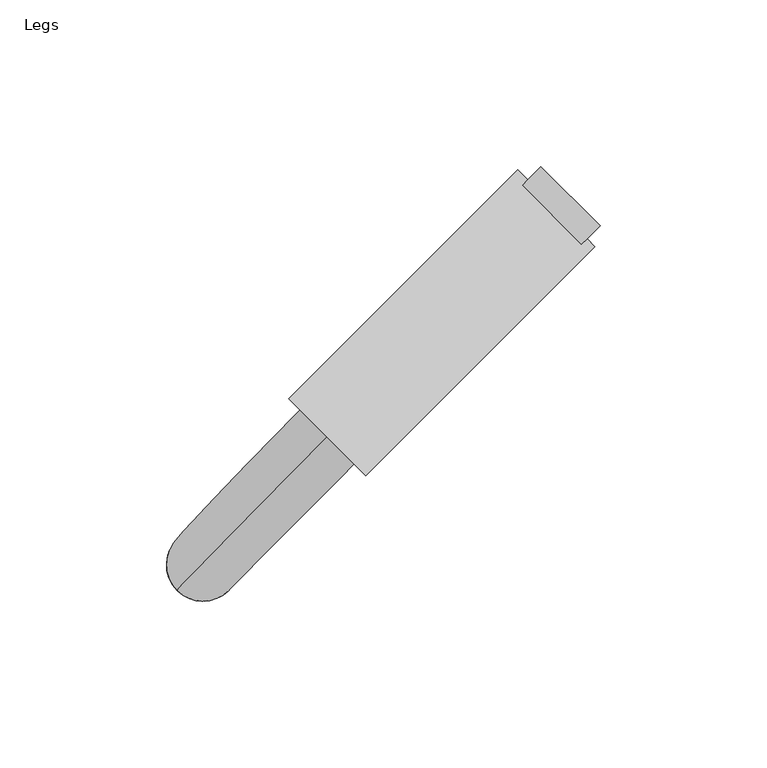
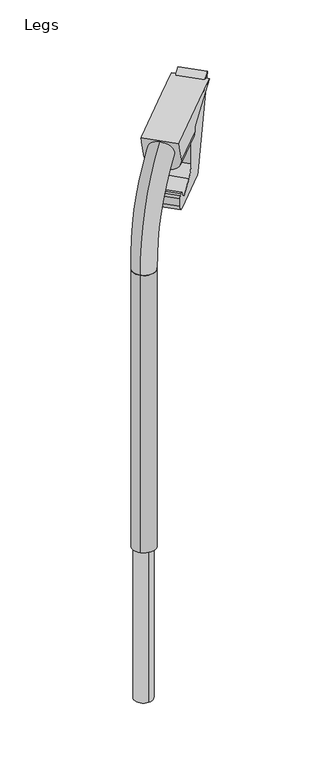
"""IFC4 building model written with IfcOpenShell, lengths in millimetres: furniture geometry, SmithSystem_AM_Numbers_Legs : Legs."""

from ifc_helpers import new_model, si_unit, frame, origin, place, context, project, spatial, polyline, circle_curve, ellipse_curve, source, transform, mapped, element, save
from ifc_brep_helpers import plane_surface, cylinder_surface, revolved_surface, spline_curve, spline_surface, advanced_brep


def legs_1ce2ac0b(model_context):
    return source(origin(), model_context, "Body", "AdvancedBrep", [
        advanced_brep(
        [(0.5359233, -8.456837, 60.300003), (0.5359233, 8.9152003, 60.300003), (0.5359233, -8.456837, 213.4888647), (0.5359233, 8.9152003, 213.4888647), (8.6865367, 7.5640073, 493.3111085), (-6.7585334, -7.8810628, 493.3111085), (8.6865367, 7.5640073, 213.4888647), (-6.7585334, -7.8810628, 213.4888647)],
        [
            (0, 1, circle_curve(frame((0.5359233, 0.2291816, 60.300003), z_axis=(0.0, 0.0, -1.0), x_axis=(-1.0, 0.0, 0.0)), 8.6860186)),
            (1, 0, circle_curve(frame((0.5359233, 0.2291816, 60.300003), z_axis=(0.0, 0.0, -1.0), x_axis=(1.0, 0.0, 0.0)), 8.6860186)),
            (0, 2),
            (2, 3, circle_curve(frame((0.5359233, 0.2291816, 213.4888647), z_axis=(0.0, 0.0, -1.0), x_axis=(-1.0, 0.0, 0.0)), 8.6860186)),
            (3, 1),
            (3, 2, circle_curve(frame((0.5359233, 0.2291816, 213.4888647), z_axis=(0.0, 0.0, -1.0), x_axis=(1.0, 0.0, 0.0)), 8.6860186)),
            (4, 5, circle_curve(frame((0.9690983, -0.1636244, 493.3111085), z_axis=(0.0, 0.0, 1.0), x_axis=(-0.7066399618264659, 0.707573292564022, 0.0)), 10.9213162)),
            (5, 4, circle_curve(frame((0.9589051, -0.1534312, 493.3111085), z_axis=(0.0, 0.0, 1.0), x_axis=(0.7066399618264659, -0.707573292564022, 0.0)), 10.9213162)),
            (6, 7, circle_curve(frame((0.9589051, -0.1534312, 213.4888647), z_axis=(0.0, 0.0, -1.0), x_axis=(0.7066399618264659, -0.707573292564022, 0.0)), 10.9213162)),
            (7, 6, circle_curve(frame((0.9690983, -0.1636244, 213.4888647), z_axis=(0.0, 0.0, -1.0), x_axis=(-0.7066399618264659, 0.707573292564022, 0.0)), 10.9213162)),
            (5, 7),
            (6, 4),
        ],
        [
            plane_surface(frame((0.5359233, 0.2291816, 60.300003), z_axis=(0.0, 0.0, -1.0), x_axis=(1.0, 0.0, 0.0))),
            cylinder_surface(frame((0.5359233, 0.2291816, 213.4888647), z_axis=(0.0, 0.0, -1.0), x_axis=(-1.0, 0.0, 0.0)), 8.6860186),
            cylinder_surface(frame((0.5359233, 0.2291816, 213.4888647), z_axis=(0.0, 0.0, -1.0), x_axis=(1.0, 0.0, 0.0)), 8.6860186),
            plane_surface(frame((0.9640017, -0.1585278, 493.3111085), z_axis=(0.0, 0.0, 1.0), x_axis=(0.7066399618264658, -0.7075732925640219, 0.0))),
            plane_surface(frame((0.9640017, -0.1585278, 213.4888647), z_axis=(0.0, 0.0, -1.0), x_axis=(0.7066399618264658, -0.7075732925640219, 0.0))),
            cylinder_surface(frame((0.9589051, -0.1534312, 213.4888647), z_axis=(0.0, 0.0, 1.0), x_axis=(0.7066399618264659, -0.707573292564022, 0.0)), 10.9213162),
            cylinder_surface(frame((0.9690983, -0.1636244, 213.4888647), z_axis=(0.0, 0.0, 1.0), x_axis=(-0.7066399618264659, 0.707573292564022, 0.0)), 10.9213162),
        ],
        [
            (0, [[1, 2]]),
            (1, [[3, 4, 5, -1]]),
            (2, [[-5, 6, -3, -2]]),
            (3, [[7, 8]]),
            (4, [[9, 10], [-6, -4]]),
            (5, [[11, -9, 12, -8]]),
            (6, [[-12, -10, -11, -7]]),
        ],
    ),
        advanced_brep(
        [(38.6127911, 38.63374, 583.9541002), (43.9258416, 43.9467906, 562.1324748), (-6.7604571, -7.8829865, 493.3192833), (8.6855791, 7.5630496, 493.3028939)],
        [
            (0, 1, spline_curve(3, [(38.6127911, 38.63374, 583.9541002), (40.748984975, 36.497546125, 583.9541002), (43.163884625, 34.657199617, 582.774205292), (47.157355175, 32.626935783, 578.742589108), (48.735926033, 32.437018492, 575.890867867), (50.122025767, 33.824193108, 570.195707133), (49.929554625, 35.401285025, 567.352267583), (48.411493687, 38.397800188, 564.316132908), (47.700580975, 39.501784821, 563.508925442), (45.991803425, 41.742231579, 562.417096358), (44.993938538, 42.878693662, 562.1324748), (43.9258416, 43.9467906, 562.1324748)], [4, 2, 2, 2, 2, 4], [0.0, 0.25, 0.5, 0.75, 0.875, 1.0])),
            (1, 0, spline_curve(3, [(43.9258416, 43.9467906, 562.1324748), (42.857744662, 45.014887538, 562.1324748), (41.721282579, 46.012752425, 562.417096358), (39.480835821, 47.721529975, 563.508925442), (38.376851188, 48.432442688, 564.316132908), (35.380336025, 49.950503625, 567.352267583), (33.803244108, 50.142974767, 570.195707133), (32.416069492, 48.756875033, 575.890867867), (32.605986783, 47.178304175, 578.742589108), (34.636250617, 43.184833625, 582.774205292), (36.476597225, 40.769933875, 583.9541002), (38.6127911, 38.63374, 583.9541002)], [4, 2, 2, 2, 2, 4], [0.0, 0.125, 0.25, 0.5, 0.75, 1.0])),
            (2, 3, spline_curve(3, [(-6.7604571, -7.8829865, 493.3192833), (-8.782339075, -5.861104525, 493.3192833), (-9.960941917, -3.012167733, 493.3183971), (-9.957932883, 2.692233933, 493.3153691), (-8.776320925, 5.547698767, 493.313227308), (-4.744597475, 9.578404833, 493.308949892), (-1.894486, 10.753646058, 493.306814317), (2.39108225, 10.766221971, 493.304533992), (3.821338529, 10.478699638, 493.303927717), (6.463116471, 9.382583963, 493.303107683), (7.674638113, 8.573990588, 493.3028939), (8.6855791, 7.5630496, 493.3028939)], [4, 2, 2, 2, 2, 4], [0.0, 0.25, 0.5, 0.75, 0.875, 1.0])),
            (3, 2, spline_curve(3, [(8.6855791, 7.5630496, 493.3028939), (9.696520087, 6.552108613, 493.3028939), (10.505113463, 5.340586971, 493.303107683), (11.601229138, 2.698809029, 493.303927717), (11.888751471, 1.26855275, 493.304533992), (11.876175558, -3.0170155, 493.306814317), (10.700934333, -5.867126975, 493.308949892), (6.670228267, -9.898850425, 493.313227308), (3.814763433, -11.080462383, 493.3153691), (-1.889638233, -11.083471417, 493.3183971), (-4.738575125, -9.904868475, 493.3192833), (-6.7604571, -7.8829865, 493.3192833)], [4, 2, 2, 2, 2, 4], [0.0, 0.125, 0.25, 0.5, 0.75, 1.0])),
            (3, 1, spline_curve(3, [(8.6855791, 7.5630496, 493.3028939), (8.496489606, 7.469249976, 502.151356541), (9.104394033, 8.172444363, 509.856980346), (11.018942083, 10.229927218, 520.058052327), (11.824240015, 11.082869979, 523.232182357), (13.779109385, 13.133029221, 529.247811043), (14.928680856, 14.33024562, 532.089309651), (17.623054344, 17.11990898, 537.534184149), (19.167856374, 18.712356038, 540.137560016), (22.723353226, 22.363142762, 545.146124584), (24.734047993, 24.421482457, 547.551313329), (31.560368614, 31.390737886, 554.441470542), (37.170230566, 37.095889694, 558.601030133), (43.9258416, 43.9467906, 562.1324748)], [4, 2, 2, 2, 2, 2, 4], [0.0, 0.054972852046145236, 0.08245927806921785, 0.10994570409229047, 0.1374321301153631, 0.1649185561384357, 0.21989140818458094])),
            (0, 2, spline_curve(3, [(38.6127911, 38.63374, 583.9541002), (30.762856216, 30.688515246, 579.780924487), (23.902411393, 23.732780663, 574.716860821), (15.141599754, 14.829034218, 565.80939999), (12.476305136, 12.116094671, 562.621685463), (7.663692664, 7.208192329, 555.823438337), (5.516374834, 5.01322957, 552.212905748), (1.742233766, 1.14379863, 544.587630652), (0.115410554, -0.53066961, 540.572888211), (-2.622697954, -3.36406799, 532.155948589), (-3.733983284, -4.522998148, 527.753751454), (-6.311478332, -7.243428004, 513.979085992), (-7.021327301, -8.048566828, 504.038543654), (-6.7604571, -7.8829865, 493.3192833)], [4, 2, 2, 2, 2, 2, 4], [0.0, 0.05497285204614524, 0.08245927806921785, 0.10994570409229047, 0.1374321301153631, 0.1649185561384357, 0.21989140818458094])),
        ],
        [
            plane_surface(frame((41.2693164, 41.2902653, 573.0432875), z_axis=(0.6685825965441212, 0.6685825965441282, 0.32556815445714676), x_axis=(-0.707106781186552, 0.7071067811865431, 0.0))),
            plane_surface(frame((0.962561, -0.1599684, 493.3110886), z_axis=(-0.0005305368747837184, -0.0005305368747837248, -0.9999997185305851), x_axis=(-0.7071067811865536, 0.7071067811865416, 0.0))),
            spline_surface(3, 3, [[(8.6855791, 7.5630496, 493.3028939), (9.696520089, 6.552108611, 493.3028939), (10.505113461, 5.340586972, 493.303107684), (11.601229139, 2.698809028, 493.303927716), (11.888751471, 1.268552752, 493.304533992), (11.876175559, -3.017015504, 493.306814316), (10.700934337, -5.867126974, 493.308949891), (6.670228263, -9.898850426, 493.313227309), (3.814763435, -11.080462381, 493.315369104), (-1.889638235, -11.083471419, 493.318397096), (-4.738575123, -9.904868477, 493.3192833), (-6.7604571, -7.8829865, 493.3192833)], [(8.496489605, 7.469249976, 502.15135654), (9.512193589, 6.453545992, 502.15135654), (10.324613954, 5.236329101, 502.175916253), (11.425934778, 2.582154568, 502.270450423), (11.714833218, 1.145201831, 502.340388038), (11.702395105, -3.160436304, 502.602410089), (10.521737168, -6.023807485, 502.84792454), (6.472238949, -10.074323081, 503.341975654), (3.603514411, -11.261351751, 503.587496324), (-2.127647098, -11.264177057, 503.936846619), (-4.989919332, -10.079974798, 504.038543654), (-7.0213273, -8.048566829, 504.038543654)], [(9.104394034, 8.172444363, 509.856980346), (10.124861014, 7.151977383, 509.856980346), (10.943386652, 5.931357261, 509.910938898), (12.058579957, 3.273426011, 510.116798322), (12.35532129, 1.836181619, 510.269467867), (12.367107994, -2.465212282, 510.843010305), (11.203899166, -5.319121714, 511.381737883), (7.180603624, -9.343449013, 512.454328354), (4.321527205, -10.512856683, 512.995524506), (-1.404362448, -10.483711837, 513.755310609), (-4.270544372, -9.284361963, 513.979085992), (-6.311478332, -7.243428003, 513.979085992)], [(11.018942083, 10.229927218, 520.058052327), (12.046553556, 9.202315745, 520.058052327), (12.880832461, 7.983165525, 520.158331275), (14.042467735, 5.345273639, 520.543573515), (14.369787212, 3.926498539, 520.828152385), (14.488860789, -0.297920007, 521.89887916), (13.417638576, -3.071607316, 522.900856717), (9.568067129, -6.92221052, 524.910946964), (6.789212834, -7.999631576, 525.915393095), (1.165956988, -7.827437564, 527.338091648), (-1.678760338, -6.578221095, 527.753751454), (-3.733983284, -4.522998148, 527.753751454)], [(11.824240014, 11.082869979, 523.232182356), (12.854232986, 10.052877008, 523.232182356), (13.69490061, 8.835361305, 523.348605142), (14.876212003, 6.208330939, 523.795040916), (15.216848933, 4.798806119, 524.125041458), (15.383657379, 0.612132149, 525.367029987), (14.354454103, -2.123529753, 526.530027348), (10.584221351, -5.894801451, 528.858103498), (7.843744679, -6.929858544, 530.024943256), (2.270103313, -6.694700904, 531.673243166), (-0.562712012, -5.424053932, 532.155948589), (-2.622697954, -3.36406799, 532.155948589)], [(13.779109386, 13.133029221, 529.247811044), (14.813865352, 12.098273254, 529.247811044), (15.669492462, 10.886194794, 529.395496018), (16.898828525, 8.289587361, 529.962196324), (17.272544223, 6.90506874, 530.38122405), (17.558170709, 2.817005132, 531.956542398), (16.634832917, 0.17936572, 533.432045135), (13.069593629, -3.386912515, 536.388654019), (10.427139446, -4.316104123, 537.867999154), (4.984978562, -3.92252243, 539.960738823), (2.184922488, -2.600181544, 540.572888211), (0.115410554, -0.53066961, 540.572888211)], [(14.928680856, 14.330245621, 532.089309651), (15.965818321, 13.293108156, 532.089309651), (16.830080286, 12.084910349, 532.252368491), (18.087636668, 9.507708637, 532.877628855), (18.480992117, 8.138762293, 533.339909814), (18.838259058, 4.112348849, 535.079119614), (17.979350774, 1.535145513, 536.708015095), (14.537856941, -1.907394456, 539.968925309), (11.956377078, -2.771625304, 541.602977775), (6.595332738, -2.283577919, 543.911610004), (3.816508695, -0.930476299, 544.587630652), (1.742233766, 1.14379863, 544.587630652)], [(17.623054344, 17.119908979, 537.534184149), (18.664954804, 16.078008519, 537.534184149), (19.548012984, 14.879084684, 537.725598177), (20.868492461, 12.34720433, 538.460121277), (21.305852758, 11.014190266, 539.003150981), (21.823230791, 7.127680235, 541.045197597), (21.108566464, 4.686877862, 542.957572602), (17.94992902, 1.527194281, 546.789517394), (15.50485012, 0.807207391, 548.707049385), (10.330343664, 1.508736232, 551.419464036), (7.600175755, 2.92942865, 552.212905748), (5.516374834, 5.01322957, 552.212905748)], [(19.167856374, 18.712356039, 540.137560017), (20.212138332, 17.668074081, 540.137560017), (21.105471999, 16.47467133, 540.342172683), (22.460425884, 13.968450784, 541.126963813), (22.922042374, 12.655625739, 541.707123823), (23.528560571, 8.848265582, 543.889863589), (22.894695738, 6.484268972, 545.933925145), (19.892306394, 3.480826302, 550.027073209), (17.524708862, 2.84230732, 552.077427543), (12.454376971, 3.661359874, 554.975161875), (9.75225658, 5.119628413, 555.823438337), (7.663692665, 7.208192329, 555.823438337)], [(22.723353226, 22.363142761, 545.146124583), (23.772398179, 21.314097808, 545.146124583), (24.686858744, 20.132299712, 545.374039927), (26.113574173, 17.680238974, 546.248457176), (26.625832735, 16.409983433, 546.894977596), (27.416959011, 12.767023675, 549.326128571), (26.950612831, 10.562702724, 551.603126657), (24.277271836, 7.888308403, 556.164683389), (22.069349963, 7.417308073, 558.447974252), (17.218218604, 8.482504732, 561.67692353), (14.574395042, 10.018004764, 562.621685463), (12.476305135, 12.116094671, 562.621685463)], [(24.734047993, 24.421482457, 547.551313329), (25.785474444, 23.370056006, 547.551313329), (26.710913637, 22.194482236, 547.78947809), (28.174662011, 19.770639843, 548.702962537), (28.713155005, 18.522551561, 549.378312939), (29.600584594, 14.965904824, 551.918818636), (29.222030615, 12.845382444, 554.298083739), (26.718230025, 10.340521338, 559.062629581), (24.594842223, 9.958041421, 561.449079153), (19.857317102, 11.150193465, 564.822051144), (17.244452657, 12.726181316, 565.80939999), (15.141599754, 14.829034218, 565.80939999)], [(31.560368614, 31.390737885, 554.441470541), (32.618939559, 30.33216694, 554.441470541), (33.576608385, 29.174539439, 554.705878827), (35.150636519, 26.834574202, 555.720434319), (35.76662838, 25.651875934, 556.470519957), (36.93828013, 22.34913984, 559.29115806), (36.816498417, 20.473625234, 561.932781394), (34.820054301, 18.476120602, 567.225549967), (32.941674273, 18.350412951, 569.87435777), (28.542696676, 19.921527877, 573.620839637), (26.019553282, 21.615638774, 574.71686082), (23.902411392, 23.732780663, 574.71686082)], [(37.170230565, 37.095889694, 558.601030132), (38.233564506, 36.032555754, 558.601030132), (39.212427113, 34.88661363, 558.87730042), (40.857585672, 32.600149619, 559.936983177), (41.523906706, 31.459645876, 560.720408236), (42.879927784, 28.321298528, 563.667444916), (42.926112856, 26.605763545, 566.427399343), (41.253519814, 24.932095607, 571.954555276), (39.536505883, 24.975726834, 574.722791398), (35.353925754, 26.789937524, 578.635610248), (32.889524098, 28.561847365, 579.780924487), (30.762856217, 30.688515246, 579.780924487)], [(43.9258416, 43.9467906, 562.1324748), (44.993938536, 42.878693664, 562.1324748), (45.991803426, 41.742231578, 562.417096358), (47.700580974, 39.501784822, 563.508925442), (48.411493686, 38.397800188, 564.316132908), (49.929554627, 35.401285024, 567.352267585), (50.122025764, 33.824193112, 570.195707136), (48.735926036, 32.437018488, 575.890867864), (47.157355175, 32.626935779, 578.74258911), (43.163884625, 34.657199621, 582.77420529), (40.748984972, 36.497546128, 583.9541002), (38.6127911, 38.63374, 583.9541002)]], [4, 2, 2, 2, 2, 2, 4], [4, 2, 2, 2, 2, 4], [0.0, 0.054972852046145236, 0.08245927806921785, 0.10994570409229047, 0.1374321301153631, 0.1649185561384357, 0.21989140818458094], [0.0, 0.125, 0.25, 0.5, 0.75, 1.0]),
            spline_surface(3, 3, [[(-6.7604571, -7.8829865, 493.3192833), (-8.782339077, -5.861104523, 493.3192833), (-9.960941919, -3.012167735, 493.318397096), (-9.957932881, 2.692233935, 493.315369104), (-8.776320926, 5.547698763, 493.313227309), (-4.744597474, 9.578404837, 493.308949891), (-1.894486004, 10.753646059, 493.306814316), (2.391082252, 10.766221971, 493.304533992), (3.821338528, 10.478699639, 493.303927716), (6.463116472, 9.382583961, 493.303107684), (7.674638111, 8.573990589, 493.3028939), (8.6855791, 7.5630496, 493.3028939)], [(-7.0213273, -8.048566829, 504.038543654), (-9.052735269, -6.017158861, 504.038543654), (-10.236937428, -3.154886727, 503.936846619), (-10.234112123, 2.576274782, 503.587496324), (-9.047083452, 5.44499932, 503.341975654), (-4.996567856, 9.49449754, 502.84792454), (-2.133196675, 10.675155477, 502.602410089), (2.17244146, 10.687593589, 502.340388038), (3.609394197, 10.398695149, 502.270450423), (6.26356873, 9.297374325, 502.175916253), (7.480785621, 8.48495396, 502.15135654), (8.496489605, 7.469249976, 502.15135654)], [(-6.311478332, -7.243428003, 513.979085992), (-8.352412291, -5.202494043, 513.979085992), (-9.551762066, -2.336312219, 513.755310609), (-9.580906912, 3.389577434, 512.995524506), (-8.411499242, 6.248653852, 512.454328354), (-4.387171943, 10.271949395, 511.381737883), (-1.533262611, 11.435158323, 510.843010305), (2.768131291, 11.423371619, 510.269467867), (4.205375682, 11.126630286, 510.116798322), (6.863306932, 10.011436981, 509.910938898), (8.083927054, 9.192911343, 509.856980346), (9.104394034, 8.172444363, 509.856980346)], [(-3.733983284, -4.522998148, 527.753751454), (-5.789206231, -2.467775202, 527.753751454), (-7.0384226, 0.376942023, 527.338091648), (-7.210616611, 6.000197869, 525.915393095), (-6.133195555, 8.779052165, 524.910946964), (-2.282592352, 12.628623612, 522.900856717), (0.491094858, 13.699845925, 521.89887916), (4.715513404, 13.580772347, 520.828152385), (6.134288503, 13.25345287, 520.543573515), (8.77218039, 12.091817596, 520.158331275), (9.99133061, 11.257538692, 520.058052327), (11.018942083, 10.229927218, 520.058052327)], [(-2.622697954, -3.36406799, 532.155948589), (-4.682683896, -1.304082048, 532.155948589), (-5.953330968, 1.528733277, 531.673243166), (-6.188488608, 7.102374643, 530.024943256), (-5.153431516, 9.842851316, 528.858103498), (-1.382159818, 13.613084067, 526.530027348), (1.353502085, 14.642287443, 525.367029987), (5.540176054, 14.475478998, 524.125041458), (6.949700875, 14.134841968, 523.795040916), (9.576731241, 12.953530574, 523.348605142), (10.794247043, 12.11286295, 523.232182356), (11.824240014, 11.082869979, 523.232182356)], [(0.115410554, -0.53066961, 540.572888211), (-1.954101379, 1.538842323, 540.572888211), (-3.276442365, 4.338898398, 539.960738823), (-3.670024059, 9.781059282, 537.867999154), (-2.740832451, 12.423513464, 536.388654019), (0.825445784, 15.988752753, 533.432045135), (3.463085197, 16.912090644, 531.956542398), (7.551148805, 16.626464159, 530.38122405), (8.935667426, 16.252748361, 529.962196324), (11.532274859, 15.023412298, 529.395496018), (12.744353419, 14.167785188, 529.247811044), (13.779109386, 13.133029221, 529.247811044)], [(1.742233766, 1.14379863, 544.587630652), (-0.332041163, 3.218073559, 544.587630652), (-1.685142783, 5.996897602, 543.911610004), (-2.173190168, 11.357941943, 541.602977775), (-1.308959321, 13.939421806, 539.968925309), (2.133580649, 17.380915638, 536.708015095), (4.710784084, 18.239823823, 535.079119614), (8.737197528, 17.882556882, 533.339909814), (10.106143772, 17.489201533, 532.877628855), (12.683345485, 16.231645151, 532.252368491), (13.891543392, 15.367383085, 532.089309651), (14.928680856, 14.330245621, 532.089309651)], [(5.516374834, 5.01322957, 552.212905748), (3.432573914, 7.09703049, 552.212905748), (2.011881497, 9.8271984, 551.419464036), (1.310352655, 15.001704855, 548.707049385), (2.030339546, 17.446783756, 546.789517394), (5.190023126, 20.6054212, 542.957572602), (7.630825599, 21.320085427, 541.045197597), (11.51733563, 20.802707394, 539.003150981), (12.850349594, 20.365347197, 538.460121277), (15.382229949, 19.04486772, 537.725598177), (16.581153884, 18.16180944, 537.534184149), (17.623054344, 17.119908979, 537.534184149)], [(7.663692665, 7.208192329, 555.823438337), (5.575128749, 9.296756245, 555.823438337), (4.11686021, 11.998876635, 554.975161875), (3.297807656, 17.069208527, 552.077427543), (3.936326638, 19.436805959, 550.027073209), (6.939769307, 22.439195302, 545.933925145), (9.303766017, 23.073060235, 543.889863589), (13.111126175, 22.466542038, 541.707123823), (14.42395112, 22.004925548, 541.126963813), (16.930171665, 20.649971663, 540.342172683), (18.123574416, 19.756637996, 540.137560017), (19.167856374, 18.712356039, 540.137560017)], [(12.476305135, 12.116094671, 562.621685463), (10.378215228, 14.214184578, 562.621685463), (8.842715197, 16.85800814, 561.67692353), (7.777518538, 21.709139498, 558.447974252), (8.248518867, 23.917061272, 556.164683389), (10.922913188, 26.590402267, 551.603126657), (13.127234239, 27.056748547, 549.326128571), (16.770193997, 26.265622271, 546.894977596), (18.040449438, 25.753363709, 546.248457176), (20.492510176, 24.32664828, 545.374039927), (21.674308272, 23.412187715, 545.146124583), (22.723353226, 22.363142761, 545.146124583)], [(15.141599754, 14.829034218, 565.80939999), (13.038746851, 16.931887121, 565.80939999), (11.462759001, 19.544751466, 564.822051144), (10.270606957, 24.282276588, 561.449079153), (10.653086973, 26.40566449, 559.062629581), (13.15794808, 28.90946508, 554.298083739), (15.27847036, 29.288018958, 551.918818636), (18.835117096, 28.40058937, 549.378312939), (20.083205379, 27.862096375, 548.702962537), (22.507047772, 26.398348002, 547.78947809), (23.682621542, 25.472908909, 547.551313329), (24.734047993, 24.421482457, 547.551313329)], [(23.902411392, 23.732780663, 574.71686082), (21.785269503, 25.849922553, 574.71686082), (20.091158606, 28.373065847, 573.620839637), (18.52004368, 32.772043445, 569.87435777), (18.645751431, 34.650423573, 567.225549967), (20.643256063, 36.646867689, 561.932781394), (22.518770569, 36.768649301, 559.29115806), (25.821506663, 35.596997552, 556.470519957), (27.004204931, 34.981005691, 555.720434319), (29.344170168, 33.406977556, 554.705878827), (30.501797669, 32.44930883, 554.441470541), (31.560368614, 31.390737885, 554.441470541)], [(30.762856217, 30.688515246, 579.780924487), (28.636188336, 32.815183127, 579.780924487), (26.864278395, 35.279584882, 578.635610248), (25.050067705, 39.462165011, 574.722791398), (25.006436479, 41.179178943, 571.954555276), (26.680104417, 42.851771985, 566.427399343), (28.395639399, 42.805586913, 563.667444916), (31.533986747, 41.449565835, 560.720408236), (32.67449049, 40.783244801, 559.936983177), (34.960954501, 39.138086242, 558.87730042), (36.106896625, 38.159223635, 558.601030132), (37.170230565, 37.095889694, 558.601030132)], [(38.6127911, 38.63374, 583.9541002), (36.476597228, 40.769933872, 583.9541002), (34.636250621, 43.184833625, 582.77420529), (32.605986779, 47.178304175, 578.74258911), (32.416069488, 48.756875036, 575.890867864), (33.803244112, 50.142974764, 570.195707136), (35.380336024, 49.950503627, 567.352267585), (38.376851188, 48.432442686, 564.316132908), (39.480835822, 47.721529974, 563.508925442), (41.721282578, 46.012752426, 562.417096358), (42.857744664, 45.014887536, 562.1324748), (43.9258416, 43.9467906, 562.1324748)]], [4, 2, 2, 2, 2, 2, 4], [4, 2, 2, 2, 2, 4], [0.0, 0.054972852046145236, 0.08245927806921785, 0.10994570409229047, 0.1374321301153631, 0.1649185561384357, 0.21989140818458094], [0.0, 0.25, 0.5, 0.75, 0.875, 1.0]),
        ],
        [
            (0, [[1, 2]]),
            (1, [[3, 4]]),
            (2, [[5, -1, 6, -4]]),
            (3, [[-6, -2, -5, -3]]),
        ],
    ),
        advanced_brep(
        [(26.697464, 49.634713, 585.5412941), (28.0505267, 50.9877757, 585.5412941), (73.178665, 96.115914, 585.5412941), (95.5381569, 118.4754058, 585.5412941), (73.178665, 96.115914, 574.0321561), (62.4150632, 85.3523122, 568.4917897), (62.4150632, 85.3523122, 563.8309529), (32.2849638, 55.2222128, 563.8309529), (28.0505267, 50.9877757, 580.2839422), (49.8182321, 26.5139449, 585.5412941), (51.1712948, 27.8670076, 580.2839422), (55.4057319, 32.1014447, 563.8309529), (85.5358313, 62.2315441, 563.8309529), (85.5358313, 62.2315441, 568.4917897), (96.2994331, 72.9951459, 574.0321561), (118.658925, 95.3546378, 585.5412941), (96.2994331, 72.9951459, 585.5412941), (51.1712948, 27.8670076, 585.5412941), (116.3046628, 97.7089, 585.5412941), (114.5880544, 95.9922916, 585.5412941), (96.7920749, 113.7882711, 585.5412941), (98.5086833, 115.5048795, 585.5412941), (65.3855896, 82.3817858, 568.4917897), (83.1815691, 64.5858063, 568.4917897), (65.3855896, 82.3817858, 558.7608481), (62.9850197, 84.7823557, 558.7608481), (84.9658748, 62.8015006, 558.7608481), (83.1815691, 64.5858063, 558.7608481), (65.3855896, 82.3817858, 530.3917897), (102.4317149, 119.4279112, 588.6028614), (81.4468556, 98.4430519, 507.0657745), (79.5168814, 96.5130777, 505.154631), (45.0339682, 62.0301644, 505.154631), (40.5438401, 57.5400363, 511.504631), (40.5438401, 57.5400363, 519.0969409), (41.551229, 58.5474252, 521.1315706), (42.8502605, 59.8464567, 521.8002232), (45.3550931, 62.3512893, 520.5109066), (47.7319436, 64.7281398, 514.6888356), (49.1003489, 66.0965452, 513.9844741), (60.8652064, 77.8614026, 520.0402185), (120.2276944, 101.6319317, 588.6028614), (83.1815691, 64.5858063, 530.3917897), (78.6611859, 60.0654231, 520.0402185), (66.8963284, 48.3005657, 513.9844741), (65.5279231, 46.9321603, 514.6888356), (63.1510726, 44.5553098, 520.5109066), (60.64624, 42.0504772, 521.8002232), (59.3472085, 40.7514457, 521.1315706), (58.3398196, 39.7440568, 519.0969409), (58.3398196, 39.7440568, 511.504631), (62.8299477, 44.2341849, 505.154631), (97.3128609, 78.7170982, 505.154631), (99.2428351, 80.6470724, 507.0657745)],
        [
            (0, 1),
            (1, 2),
            (2, 3),
            (3, 4),
            (4, 5),
            (5, 6),
            (6, 7),
            (7, 8),
            (8, 0),
            (9, 10),
            (10, 11),
            (11, 12),
            (12, 13),
            (13, 14),
            (14, 15),
            (15, 16),
            (16, 17),
            (17, 9),
            (15, 18),
            (18, 19),
            (19, 20),
            (20, 21),
            (21, 3),
            (0, 9),
            (21, 22),
            (22, 5),
            (13, 23),
            (23, 18),
            (22, 24),
            (24, 25),
            (25, 6, circle_curve(frame((73.9754473, 73.7919282, 563.8309529), z_axis=(0.7071067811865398, 0.7071067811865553, 0.0), x_axis=(0.7071067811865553, -0.7071067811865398, 0.0)), 16.3488519)),
            (12, 26, circle_curve(frame((73.9754473, 73.7919282, 563.8309529), z_axis=(0.7071067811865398, 0.7071067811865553, 0.0), x_axis=(0.7071067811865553, -0.7071067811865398, 0.0)), 16.3488519)),
            (26, 27),
            (27, 23),
            (24, 27),
            (26, 25, ellipse_curve(frame((83.8254437, 83.6419246, 563.8309529), z_axis=(0.2418447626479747, 0.24184476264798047, -0.9396926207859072), x_axis=(0.6644630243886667, 0.6644630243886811, 0.342020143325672)), 47.8008451, 16.3488519)),
            (7, 11, ellipse_curve(frame((43.8453479, 43.6618287, 563.8309529), z_axis=(-0.664463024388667, -0.6644630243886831, -0.3420201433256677), x_axis=(0.24184476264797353, 0.24184476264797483, -0.939692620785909)), 17.3980848, 16.3488519)),
            (28, 24),
            (20, 29),
            (29, 30),
            (30, 31, circle_curve(frame((79.5168814, 96.5130777, 508.0591933), z_axis=(-0.7071067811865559, 0.7071067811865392, 0.0), x_axis=(-0.7071067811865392, -0.7071067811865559, 0.0)), 2.9045622)),
            (31, 32),
            (32, 33, circle_curve(frame((45.0339682, 62.0301644, 511.504631), z_axis=(-0.7071067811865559, 0.7071067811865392, 0.0), x_axis=(-0.7071067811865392, -0.7071067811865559, 0.0)), 6.35)),
            (33, 34),
            (34, 35, circle_curve(frame((42.0748731, 59.0710694, 519.0969409), z_axis=(-0.7071067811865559, 0.7071067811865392, 0.0), x_axis=(-0.7071067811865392, -0.7071067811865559, 0.0)), 2.1652077)),
            (35, 36),
            (36, 37, circle_curve(frame((43.5594251, 60.5556214, 519.0447499), z_axis=(-0.7071067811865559, 0.7071067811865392, 0.0), x_axis=(-0.7071067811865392, -0.7071067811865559, 0.0)), 2.9323134)),
            (37, 38),
            (38, 39, circle_curve(frame((48.712928, 65.7091242, 515.489806), z_axis=(0.7071067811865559, -0.7071067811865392, 0.0), x_axis=(-0.7071067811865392, -0.7071067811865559, 0.0)), 1.6019408)),
            (39, 40),
            (40, 28, circle_curve(frame((58.491561, 75.4877572, 529.2630649), z_axis=(0.7071067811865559, -0.7071067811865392, 0.0), x_axis=(-0.7071067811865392, -0.7071067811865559, 0.0)), 9.8147482)),
            (41, 19),
            (27, 42),
            (42, 43, circle_curve(frame((76.2875405, 57.6917777, 529.2630649), z_axis=(-0.7071067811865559, 0.7071067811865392, 0.0), x_axis=(-0.7071067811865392, -0.7071067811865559, 0.0)), 9.8147482)),
            (43, 44),
            (44, 45, circle_curve(frame((66.5089075, 47.9131447, 515.489806), z_axis=(-0.7071067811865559, 0.7071067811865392, 0.0), x_axis=(-0.7071067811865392, -0.7071067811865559, 0.0)), 1.6019408)),
            (45, 46),
            (46, 47, circle_curve(frame((61.3554046, 42.7596419, 519.0447499), z_axis=(0.7071067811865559, -0.7071067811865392, 0.0), x_axis=(-0.7071067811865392, -0.7071067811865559, 0.0)), 2.9323134)),
            (47, 48),
            (48, 49, circle_curve(frame((59.8708526, 41.2750899, 519.0969409), z_axis=(0.7071067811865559, -0.7071067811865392, 0.0), x_axis=(-0.7071067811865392, -0.7071067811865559, 0.0)), 2.1652077)),
            (49, 50),
            (50, 51, circle_curve(frame((62.8299477, 44.2341849, 511.504631), z_axis=(0.7071067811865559, -0.7071067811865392, 0.0), x_axis=(-0.7071067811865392, -0.7071067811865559, 0.0)), 6.35)),
            (51, 52),
            (52, 53, circle_curve(frame((97.3128609, 78.7170982, 508.0591933), z_axis=(0.7071067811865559, -0.7071067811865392, 0.0), x_axis=(-0.7071067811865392, -0.7071067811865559, 0.0)), 2.9045622)),
            (53, 41),
            (28, 42),
            (41, 29),
            (53, 30),
            (52, 31),
            (51, 32),
            (50, 33),
            (49, 34),
            (48, 35),
            (47, 36),
            (46, 37),
            (45, 38),
            (44, 39),
            (43, 40),
        ],
        [
            plane_surface(frame((26.697464, 49.634713, 585.5412941), z_axis=(-0.7071067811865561, 0.707106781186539, 0.0), x_axis=(0.2418447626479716, 0.24184476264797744, -0.9396926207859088))),
            plane_surface(frame((49.8182321, 26.5139449, 585.5412941), z_axis=(0.7071067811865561, -0.707106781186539, 0.0), x_axis=(-0.2418447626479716, -0.24184476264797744, 0.9396926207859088))),
            plane_surface(frame((95.5381569, 118.4754058, 585.5412941), z_axis=(0.0, 0.0, 1.0000000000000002), x_axis=(0.7071067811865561, -0.707106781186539, 0.0))),
            plane_surface(frame((62.4150632, 85.3523122, 568.4917897), z_axis=(0.24184476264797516, 0.2418447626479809, -0.9396926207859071), x_axis=(0.7071067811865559, -0.7071067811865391, 0.0))),
            plane_surface(frame((62.4150632, 85.3523122, 558.7608481), z_axis=(0.7071067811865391, 0.7071067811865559, 0.0), x_axis=(0.7071067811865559, -0.7071067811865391, 0.0))),
            plane_surface(frame((36.9617466, 59.8989956, 545.6592206), z_axis=(0.2418447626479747, 0.24184476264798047, -0.9396926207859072), x_axis=(0.707106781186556, -0.7071067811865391, 0.0))),
            plane_surface(frame((26.697464, 49.634713, 585.5412941), z_axis=(-0.664463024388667, -0.6644630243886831, -0.3420201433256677), x_axis=(0.7071067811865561, -0.707106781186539, 0.0))),
            cylinder_surface(frame((84.7390491, 84.5555299, 563.8309529), z_axis=(0.7071067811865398, 0.7071067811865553, 0.0), x_axis=(0.7071067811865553, -0.7071067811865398, 0.0)), 16.3488519),
            plane_surface(frame((51.551486, 68.5476822, 529.2630649), z_axis=(-0.7071067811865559, 0.7071067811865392, 0.0), x_axis=(0.0, 0.0, 1.0))),
            plane_surface(frame((69.3474655, 50.7517027, 529.2630649), z_axis=(0.7071067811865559, -0.7071067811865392, 0.0), x_axis=(0.0, 0.0, -1.0))),
            plane_surface(frame((65.3855896, 82.3817858, 568.4917897), z_axis=(-0.7071067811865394, -0.7071067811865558, 0.0), x_axis=(0.7071067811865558, -0.7071067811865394, 0.0))),
            plane_surface(frame((102.4317149, 119.4279112, 588.6028614), z_axis=(-0.2534044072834, -0.2534044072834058, 0.9335804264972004), x_axis=(0.7071067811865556, -0.7071067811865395, 0.0))),
            plane_surface(frame((81.4468556, 98.4430519, 507.0657745), z_axis=(0.6644630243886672, 0.6644630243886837, -0.34202014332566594), x_axis=(0.7071067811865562, -0.7071067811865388, 0.0))),
            cylinder_surface(frame((97.3128609, 78.7170982, 508.0591933), z_axis=(-0.7071067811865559, 0.7071067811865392, 0.0), x_axis=(-0.7071067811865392, -0.7071067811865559, 0.0)), 2.9045622),
            plane_surface(frame((45.0339682, 62.0301644, 505.154631), z_axis=(0.0, 0.0, -1.0), x_axis=(0.7071067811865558, -0.7071067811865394, 0.0))),
            cylinder_surface(frame((62.8299477, 44.2341849, 511.504631), z_axis=(-0.7071067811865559, 0.7071067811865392, 0.0), x_axis=(-0.7071067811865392, -0.7071067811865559, 0.0)), 6.35),
            plane_surface(frame((40.5438401, 57.5400363, 519.0969409), z_axis=(-0.7071067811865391, -0.7071067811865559, 0.0), x_axis=(0.7071067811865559, -0.7071067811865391, 0.0))),
            cylinder_surface(frame((59.8708526, 41.2750899, 519.0969409), z_axis=(-0.7071067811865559, 0.7071067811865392, 0.0), x_axis=(-0.7071067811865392, -0.7071067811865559, 0.0)), 2.1652077),
            plane_surface(frame((42.8502605, 59.8464567, 521.8002232), z_axis=(-0.24184476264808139, -0.24184476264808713, 0.9396926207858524), x_axis=(0.7071067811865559, -0.7071067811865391, 0.0))),
            cylinder_surface(frame((61.3554046, 42.7596419, 519.0447499), z_axis=(-0.7071067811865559, 0.7071067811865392, 0.0), x_axis=(-0.7071067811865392, -0.7071067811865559, 0.0)), 2.9323134),
            plane_surface(frame((47.7319436, 64.7281398, 514.6888356), z_axis=(0.6123724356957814, 0.6123724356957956, 0.5000000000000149), x_axis=(0.7071067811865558, -0.7071067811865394, 0.0))),
            revolved_surface(polyline([(65.37616429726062, 46.78040149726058, 515.489806), (47.580184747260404, 64.57638104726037, 515.489806)]), (66.5089075, 47.9131447, 515.489806), (0.7071067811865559, -0.7071067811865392, 0.0)),
            plane_surface(frame((60.8652064, 77.8614026, 520.0402185), z_axis=(-0.2418447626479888, -0.2418447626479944, 0.9396926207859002), x_axis=(0.7071067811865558, -0.7071067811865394, 0.0))),
            revolved_surface(polyline([(69.34746549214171, 50.75170269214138, 529.2630649), (51.55148599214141, 68.54768219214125, 529.2630649)]), (76.2875405, 57.6917777, 529.2630649), (0.7071067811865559, -0.7071067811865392, 0.0)),
        ],
        [
            (0, [[1, 2, 3, 4, 5, 6, 7, 8, 9]]),
            (1, [[10, 11, 12, 13, 14, 15, 16, 17, 18]]),
            (2, [[-18, -17, -16, 19, 20, 21, 22, 23, -3, -2, -1, 24]]),
            (3, [[-4, -23, 25, 26, -5]]),
            (3, [[-14, 27, 28, -19, -15]]),
            (4, [[-26, 29, 30, 31, -6]]),
            (4, [[32, 33, 34, -27, -13]]),
            (5, [[-30, 35, -33, 36]]),
            (6, [[-9, -8, 37, -11, -10, -24]]),
            (7, [[-31, -36, -32, -12, -37, -7]]),
            (8, [[38, -29, -25, -22, 39, 40, 41, 42, 43, 44, 45, 46, 47, 48, 49, 50, 51]]),
            (9, [[52, -20, -28, -34, 53, 54, 55, 56, 57, 58, 59, 60, 61, 62, 63, 64, 65]]),
            (10, [[-53, -35, -38, 66]]),
            (11, [[-39, -21, -52, 67]]),
            (12, [[-67, -65, 68, -40]]),
            (13, [[-68, -64, 69, -41]]),
            (14, [[-69, -63, 70, -42]]),
            (15, [[-70, -62, 71, -43]]),
            (16, [[-71, -61, 72, -44]]),
            (17, [[-72, -60, 73, -45]]),
            (18, [[-73, -59, 74, -46]]),
            (19, [[-74, -58, 75, -47]]),
            (20, [[-75, -57, 76, -48]]),
            (21, [[-76, -56, 77, -49]]),
            (22, [[-77, -55, 78, -50]]),
            (23, [[-78, -54, -66, -51]]),
        ],
    ),
    ])


if __name__ == "__main__":
    model = new_model("IFC4")
    model_context = context("Model", 3, world=origin())
    ifc_project = project(units=[si_unit("LENGTHUNIT", "METRE", prefix="MILLI")], contexts=[model_context])
    site = spatial("IfcSite", under=ifc_project)
    building = spatial("IfcBuilding", under=site)
    placement = place(None, origin())
    legs_shape = legs_1ce2ac0b(model_context)
    element("IfcFurniture", 1, ObjectType="SmithSystem_AM_Numbers_Legs : Legs", at=placement, inside=building, context=model_context, shape_type="MappedRepresentation", body=[
        mapped(legs_shape, transform((0.0, 0.0, 0.0), x_axis=(1.0, 0.0, 0.0), y_axis=(0.0, 1.0, 0.0), z_axis=(0.0, 0.0, 1.0))),
    ])
    save(model, "model.ifc")
